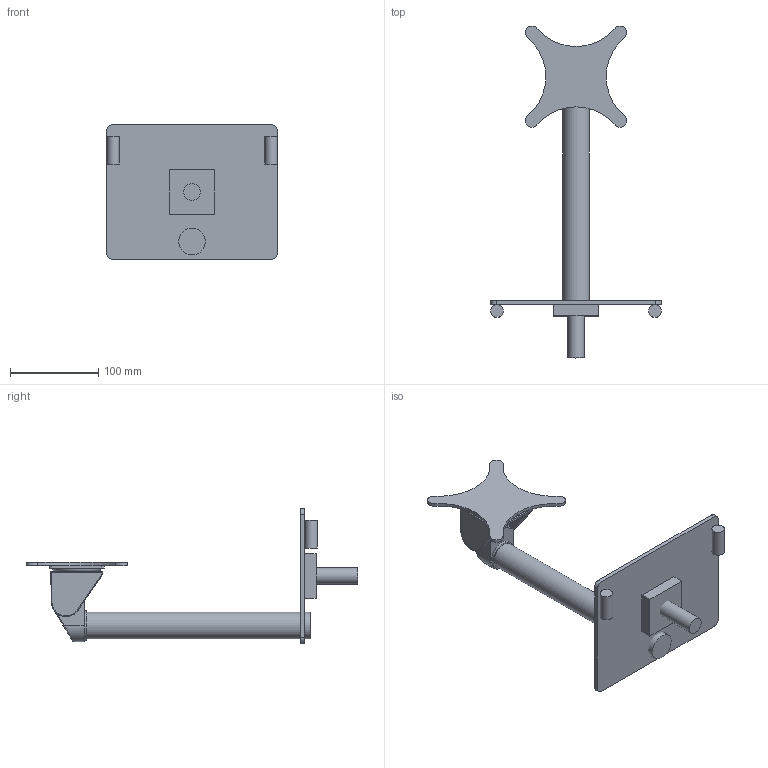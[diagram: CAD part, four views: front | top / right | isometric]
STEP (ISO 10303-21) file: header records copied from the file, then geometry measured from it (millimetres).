
FILE_DESCRIPTION((''),'2;1');
FILE_NAME('C:\Documents and Settings\abrey\Desktop\8131-52-10 Gen Ref\8131-52-10 Gen Ref.stp','2010-05-05T10:39:19',('abrey'),(''),'Autodesk Inventor 2010','Autodesk Inventor 2010','');
FILE_SCHEMA(('AUTOMOTIVE_DESIGN { 1 0 10303 214 1 1 1 1 }'));
Length unit declared in the file: inch
Products named in the file (12): 8131-52-10 Gen Ref; 101553-10 Gen Ref; 701228 Gen Ref; 701596 Gen Ref; 700969 Gen Ref; 704060 Gen Ref; 108926 Gen Ref; 701161 Gen Ref; 102686 Gen Ref; 103168 Gen Ref; 700088 Gen Ref; 105587gen ref
Assembly tree (12 placements, depth 3):
  8131-52-10 Gen Ref
    101553-10 Gen Ref
      701228 Gen Ref
      701596 Gen Ref
      700969 Gen Ref  x2
    704060 Gen Ref
    108926 Gen Ref
    701161 Gen Ref
    102686 Gen Ref
    103168 Gen Ref
    700088 Gen Ref
    105587gen ref
Bounding box: 193.68 x 376.85 x 152.4 mm (x, y, z)
Volume: 546683 mm3; surface area: 155254.8 mm2
Topology: 11 solids, 11 shells, 135 faces, 299 edges, 181 vertices
Faces by surface type: cylinder 59, plane 46, bspline 22, sphere 4, torus 3, cone 1
Full cylindrical faces by diameter (mm): 0.025 x4, 14.288 x2, 19.05 x1, 30.163 x1, 33.02 x1, 53.975 x1
Entity records: 4591 total; most frequent: CARTESIAN_POINT 1277, DIRECTION 680, ORIENTED_EDGE 548, AXIS2_PLACEMENT_3D 279, EDGE_CURVE 274, VERTEX_POINT 177, EDGE_LOOP 163, FACE_OUTER_BOUND 132
